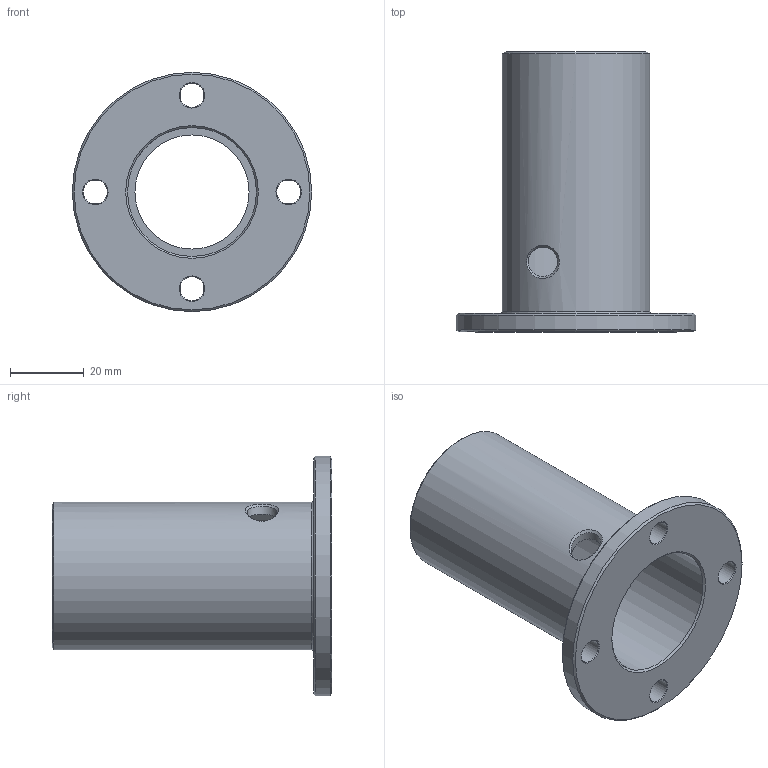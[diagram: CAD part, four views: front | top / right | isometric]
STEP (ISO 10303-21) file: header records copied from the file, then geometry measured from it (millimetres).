
FILE_DESCRIPTION(/* description */ (''),/* implementation_level */ '2;1');
FILE_NAME(/* name */ 'C:\Users\Nick_2\Dropbox\WG Projekte\Kamp und Kötter\Artikel\Lagerhülse 20mm\02_STEP-Dateien\LH20-FL.stp',/* time_stamp */ '2016-02-02T18:43:44+01:00',/* author */ ('Nick_2'),/* organization */ (''),/* preprocessor_version */ 'ST-DEVELOPER v15.6',/* originating_system */ 'Autodesk Inventor 2015',/* authorisation */ '');
FILE_SCHEMA (('AUTOMOTIVE_DESIGN { 1 0 10303 214 3 1 1 }'));
Length unit declared in the file: millimetre
Products named in the file (1): Lagerflansch20mm
Bounding box: 65 x 76 x 65 mm (x, y, z)
Volume: 32829.2 mm3; surface area: 23189.2 mm2
Topology: 1 solids, 1 shells, 30 faces, 67 edges, 42 vertices
Faces by surface type: cone 13, cylinder 10, plane 5, bspline 1, torus 1
Full cylindrical faces by diameter (mm): 6.5 x4, 8 x1, 31 x1, 35 x2, 40 x1, 65 x1
Entity records: 916 total; most frequent: CARTESIAN_POINT 313, DIRECTION 125, ORIENTED_EDGE 76, EDGE_LOOP 69, AXIS2_PLACEMENT_3D 62, FACE_BOUND 39, EDGE_CURVE 38, VERTEX_POINT 37
